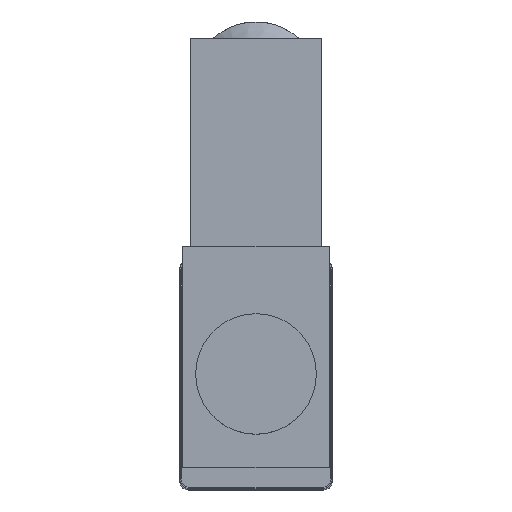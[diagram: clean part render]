
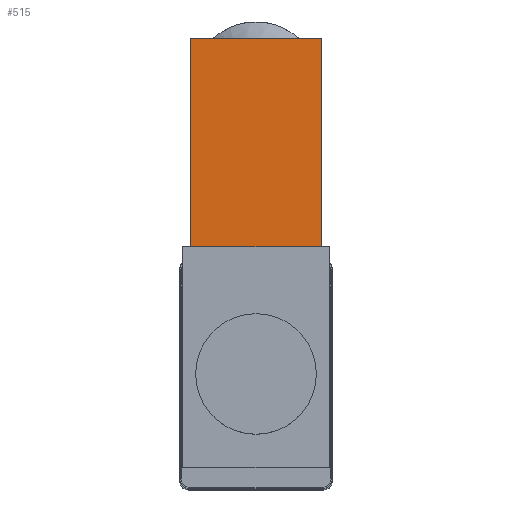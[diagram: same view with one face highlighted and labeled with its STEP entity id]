
A CAD part, top view. The second image highlights one B-rep face of the part: STEP entity #515.
In plain terms, the highlighted planar face has unit normal (0, 0, 1).
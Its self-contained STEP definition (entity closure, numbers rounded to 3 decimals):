
#72 = EDGE_CURVE ( 'NONE', #1608, #3160, #2629, .T. ) ;
#317 = VERTEX_POINT ( 'NONE', #2202 ) ;
#464 = EDGE_CURVE ( 'NONE', #749, #1608, #3021, .T. ) ;
#471 = VECTOR ( 'NONE', #4291, 1000. ) ;
#515 = ADVANCED_FACE ( 'NONE', ( #771 ), #1200, .F. ) ;
#749 = VERTEX_POINT ( 'NONE', #3506 ) ;
#771 = FACE_OUTER_BOUND ( 'NONE', #1062, .T. ) ;
#832 = DIRECTION ( 'NONE',  ( 0., 0., -1. ) ) ;
#961 = CARTESIAN_POINT ( 'NONE',  ( 7.7, 39.5, 43.1 ) ) ;
#1062 = EDGE_LOOP ( 'NONE', ( #2692, #3519, #3118, #4737 ) ) ;
#1119 = CARTESIAN_POINT ( 'NONE',  ( -7.7, 39.5, 43.1 ) ) ;
#1200 = PLANE ( 'NONE',  #4366 ) ;
#1587 = DIRECTION ( 'NONE',  ( 0., -1., 0. ) ) ;
#1608 = VERTEX_POINT ( 'NONE', #961 ) ;
#1829 = DIRECTION ( 'NONE',  ( 0., -1., 0. ) ) ;
#1851 = DIRECTION ( 'NONE',  ( 1., 0., 0. ) ) ;
#1927 = LINE ( 'NONE', #2740, #471 ) ;
#2202 = CARTESIAN_POINT ( 'NONE',  ( -7.7, 15., 43.1 ) ) ;
#2264 = DIRECTION ( 'NONE',  ( 1., 0., 0. ) ) ;
#2629 = LINE ( 'NONE', #3846, #4618 ) ;
#2692 = ORIENTED_EDGE ( 'NONE', *, *, #3383, .T. ) ;
#2740 = CARTESIAN_POINT ( 'NONE',  ( -7.7, 39.5, 43.1 ) ) ;
#2781 = CARTESIAN_POINT ( 'NONE',  ( 7.7, 15., 43.1 ) ) ;
#3021 = LINE ( 'NONE', #3046, #3270 ) ;
#3046 = CARTESIAN_POINT ( 'NONE',  ( -7.7, 39.5, 43.1 ) ) ;
#3118 = ORIENTED_EDGE ( 'NONE', *, *, #72, .F. ) ;
#3160 = VERTEX_POINT ( 'NONE', #2781 ) ;
#3270 = VECTOR ( 'NONE', #1851, 1000. ) ;
#3383 = EDGE_CURVE ( 'NONE', #749, #317, #1927, .T. ) ;
#3506 = CARTESIAN_POINT ( 'NONE',  ( -7.7, 39.5, 43.1 ) ) ;
#3519 = ORIENTED_EDGE ( 'NONE', *, *, #4093, .T. ) ;
#3846 = CARTESIAN_POINT ( 'NONE',  ( 7.7, 39.5, 43.1 ) ) ;
#3905 = CARTESIAN_POINT ( 'NONE',  ( 8.6, 15., 43.1 ) ) ;
#3967 = VECTOR ( 'NONE', #2264, 1000. ) ;
#4093 = EDGE_CURVE ( 'NONE', #317, #3160, #5040, .T. ) ;
#4291 = DIRECTION ( 'NONE',  ( 0., -1., 0. ) ) ;
#4366 = AXIS2_PLACEMENT_3D ( 'NONE', #1119, #832, #1587 ) ;
#4618 = VECTOR ( 'NONE', #1829, 1000. ) ;
#4737 = ORIENTED_EDGE ( 'NONE', *, *, #464, .F. ) ;
#5040 = LINE ( 'NONE', #3905, #3967 ) ;
